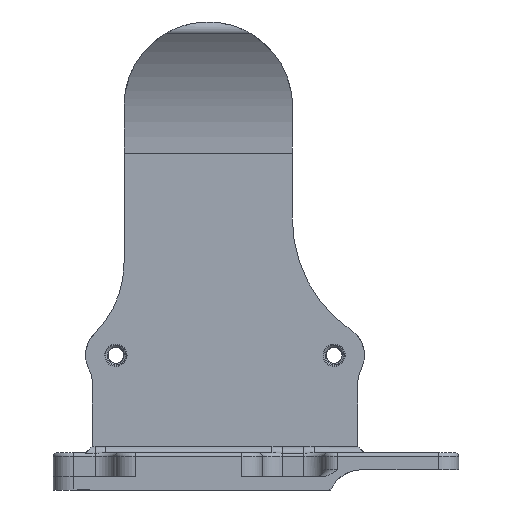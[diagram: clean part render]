
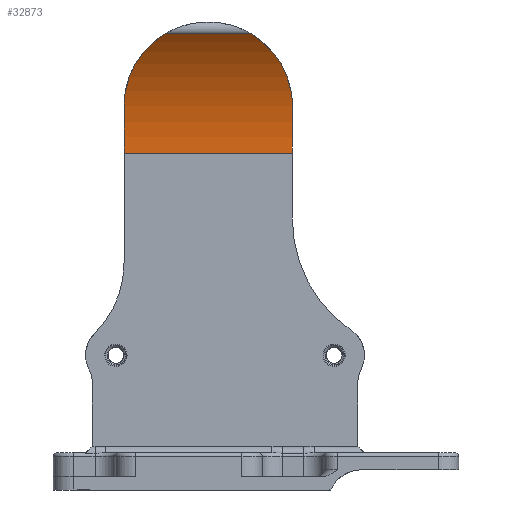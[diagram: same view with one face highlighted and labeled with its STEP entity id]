
A CAD part, left-side view. The second image highlights one B-rep face of the part: STEP entity #32873.
In plain terms, the highlighted cylindrical face has radius 27.6 mm (diameter 55.2 mm), a partial arc.
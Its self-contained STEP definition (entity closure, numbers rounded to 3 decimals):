
#32454=AXIS2_PLACEMENT_3D('Circle Axis2P3D',#32452,#32453,$) ;
#32625=AXIS2_PLACEMENT_3D('Circle Axis2P3D',#32623,#32624,$) ;
#32838=AXIS2_PLACEMENT_3D('Cylinder Axis2P3D',#32835,#32836,#32837) ;
#32253=CARTESIAN_POINT('Line Origine',(-10.85,-2.9,50.)) ;
#32257=CARTESIAN_POINT('Vertex',(-10.85,9.6,50.)) ;
#32259=CARTESIAN_POINT('Vertex',(-10.85,-15.4,50.)) ;
#32449=CARTESIAN_POINT('Vertex',(-11.752,-15.4,57.)) ;
#32452=CARTESIAN_POINT('Axis2P3D Location',(-38.45,-15.4,50.)) ;
#32623=CARTESIAN_POINT('Axis2P3D Location',(-38.45,9.6,50.)) ;
#32627=CARTESIAN_POINT('Vertex',(-11.752,9.6,57.)) ;
#32835=CARTESIAN_POINT('Axis2P3D Location',(-38.45,0.,50.)) ;
#32840=CARTESIAN_POINT('Line Origine',(-17.297,0.,67.729)) ;
#32844=CARTESIAN_POINT('Vertex',(-17.297,3.514,67.729)) ;
#32846=CARTESIAN_POINT('Vertex',(-17.297,-9.314,67.729)) ;
#32850=CARTESIAN_POINT('Control Point',(-17.297,3.514,67.729)) ;
#32851=CARTESIAN_POINT('Control Point',(-16.186,5.732,66.403)) ;
#32852=CARTESIAN_POINT('Control Point',(-14.825,7.505,64.561)) ;
#32853=CARTESIAN_POINT('Control Point',(-13.534,8.851,62.355)) ;
#32854=CARTESIAN_POINT('Control Point',(-12.466,9.6,59.721)) ;
#32855=CARTESIAN_POINT('Control Point',(-11.752,9.6,57.)) ;
#32858=CARTESIAN_POINT('Control Point',(-17.297,-9.314,67.729)) ;
#32859=CARTESIAN_POINT('Control Point',(-16.186,-11.532,66.403)) ;
#32860=CARTESIAN_POINT('Control Point',(-14.825,-13.305,64.561)) ;
#32861=CARTESIAN_POINT('Control Point',(-13.534,-14.651,62.355)) ;
#32862=CARTESIAN_POINT('Control Point',(-12.466,-15.4,59.721)) ;
#32863=CARTESIAN_POINT('Control Point',(-11.752,-15.4,57.)) ;
#32254=DIRECTION('Vector Direction',(0.,-1.,0.)) ;
#32453=DIRECTION('Axis2P3D Direction',(0.,-1.,0.)) ;
#32624=DIRECTION('Axis2P3D Direction',(0.,-1.,0.)) ;
#32836=DIRECTION('Axis2P3D Direction',(0.,1.,0.)) ;
#32837=DIRECTION('Axis2P3D XDirection',(0.766,0.,0.642)) ;
#32841=DIRECTION('Vector Direction',(0.,1.,0.)) ;
#32255=VECTOR('Line Direction',#32254,1.) ;
#32842=VECTOR('Line Direction',#32841,1.) ;
#32866=ORIENTED_EDGE('',*,*,#32848,.F.) ;
#32867=ORIENTED_EDGE('',*,*,#32856,.T.) ;
#32868=ORIENTED_EDGE('',*,*,#32629,.F.) ;
#32869=ORIENTED_EDGE('',*,*,#32261,.T.) ;
#32870=ORIENTED_EDGE('',*,*,#32456,.T.) ;
#32871=ORIENTED_EDGE('',*,*,#32864,.F.) ;
#32873=ADVANCED_FACE('Insert',(#32872),#32839,.F.) ;
#32849=B_SPLINE_CURVE_WITH_KNOTS('',5,(#32850,#32851,#32852,#32853,#32854,#32855),.UNSPECIFIED.,.F.,.U.,(6,6),(0.,19.89),.UNSPECIFIED.) ;
#32857=B_SPLINE_CURVE_WITH_KNOTS('',5,(#32858,#32859,#32860,#32861,#32862,#32863),.UNSPECIFIED.,.F.,.U.,(6,6),(0.,19.89),.UNSPECIFIED.) ;
#32455=CIRCLE('generated circle',#32454,27.6) ;
#32626=CIRCLE('generated circle',#32625,27.6) ;
#32839=CYLINDRICAL_SURFACE('generated cylinder',#32838,27.6) ;
#32261=EDGE_CURVE('',#32258,#32260,#32256,.T.) ;
#32456=EDGE_CURVE('',#32260,#32450,#32455,.T.) ;
#32629=EDGE_CURVE('',#32258,#32628,#32626,.T.) ;
#32848=EDGE_CURVE('',#32845,#32847,#32843,.F.) ;
#32856=EDGE_CURVE('',#32845,#32628,#32849,.T.) ;
#32864=EDGE_CURVE('',#32847,#32450,#32857,.T.) ;
#32865=EDGE_LOOP('',(#32866,#32867,#32868,#32869,#32870,#32871)) ;
#32872=FACE_OUTER_BOUND('',#32865,.T.) ;
#32256=LINE('Line',#32253,#32255) ;
#32843=LINE('Line',#32840,#32842) ;
#32258=VERTEX_POINT('',#32257) ;
#32260=VERTEX_POINT('',#32259) ;
#32450=VERTEX_POINT('',#32449) ;
#32628=VERTEX_POINT('',#32627) ;
#32845=VERTEX_POINT('',#32844) ;
#32847=VERTEX_POINT('',#32846) ;
